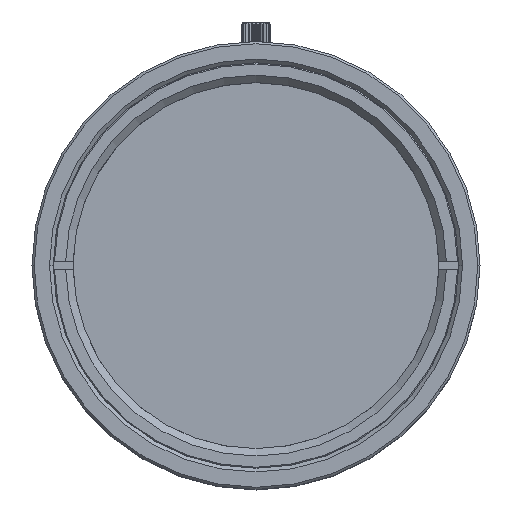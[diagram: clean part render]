
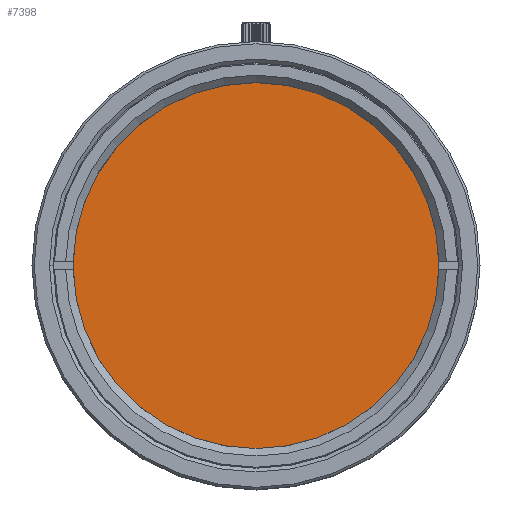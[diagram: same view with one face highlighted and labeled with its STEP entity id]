
A CAD part, top view. The second image highlights one B-rep face of the part: STEP entity #7398.
In plain terms, the highlighted planar face has unit normal (0, 0, 1).
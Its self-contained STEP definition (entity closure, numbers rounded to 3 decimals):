
#167 = CARTESIAN_POINT ( 'NONE',  ( 0., 0., 59.414 ) ) ;
#1149 = CIRCLE ( 'NONE', #10900, 24.6 ) ;
#1809 = DIRECTION ( 'NONE',  ( 1., 0., 0. ) ) ;
#2335 = EDGE_LOOP ( 'NONE', ( #8181, #20383 ) ) ;
#2933 = DIRECTION ( 'NONE',  ( -1., 0., 0. ) ) ;
#3284 = EDGE_CURVE ( 'NONE', #20098, #4349, #4343, .T. ) ;
#3758 = AXIS2_PLACEMENT_3D ( 'NONE', #9316, #20878, #10975 ) ;
#4343 = CIRCLE ( 'NONE', #3758, 24.6 ) ;
#4349 = VERTEX_POINT ( 'NONE', #20059 ) ;
#4372 = FACE_OUTER_BOUND ( 'NONE', #2335, .T. ) ;
#4504 = DIRECTION ( 'NONE',  ( 0., 0., -1. ) ) ;
#5479 = CARTESIAN_POINT ( 'NONE',  ( -24.6, 0., 59.414 ) ) ;
#6259 = AXIS2_PLACEMENT_3D ( 'NONE', #11125, #4504, #2933 ) ;
#7398 = ADVANCED_FACE ( 'NONE', ( #4372 ), #12789, .F. ) ;
#8181 = ORIENTED_EDGE ( 'NONE', *, *, #3284, .T. ) ;
#9316 = CARTESIAN_POINT ( 'NONE',  ( 0., 0., 59.414 ) ) ;
#10900 = AXIS2_PLACEMENT_3D ( 'NONE', #167, #11673, #1809 ) ;
#10975 = DIRECTION ( 'NONE',  ( 1., 0., 0. ) ) ;
#11125 = CARTESIAN_POINT ( 'NONE',  ( 0., 0., 59.414 ) ) ;
#11673 = DIRECTION ( 'NONE',  ( 0., 0., 1. ) ) ;
#12789 = PLANE ( 'NONE',  #6259 ) ;
#17696 = EDGE_CURVE ( 'NONE', #4349, #20098, #1149, .T. ) ;
#20059 = CARTESIAN_POINT ( 'NONE',  ( 24.6, 0., 59.414 ) ) ;
#20098 = VERTEX_POINT ( 'NONE', #5479 ) ;
#20383 = ORIENTED_EDGE ( 'NONE', *, *, #17696, .T. ) ;
#20878 = DIRECTION ( 'NONE',  ( 0., 0., 1. ) ) ;
